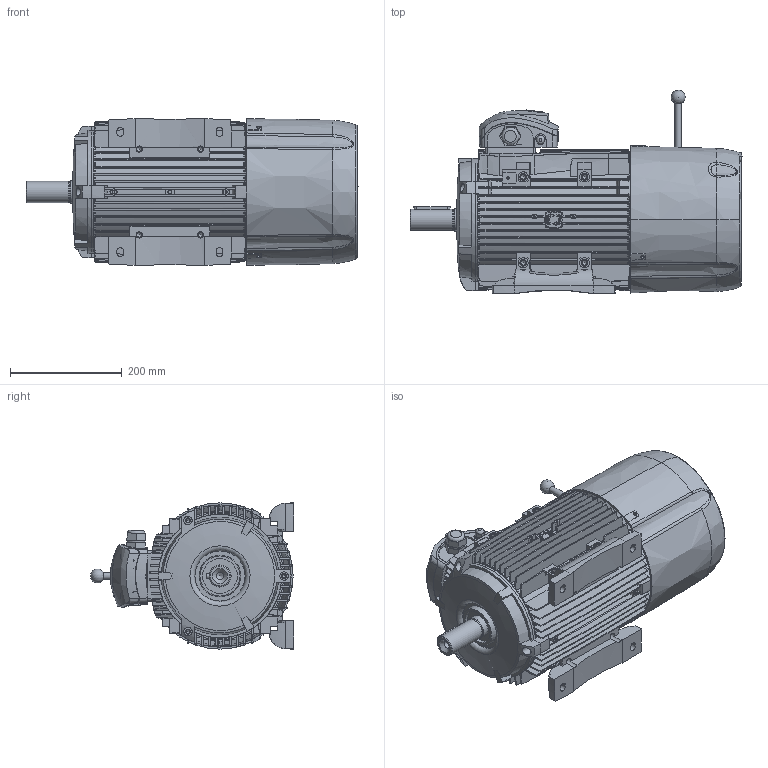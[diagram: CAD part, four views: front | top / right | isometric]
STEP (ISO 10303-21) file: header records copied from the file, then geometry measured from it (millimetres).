
FILE_DESCRIPTION((''),'2;1');
FILE_NAME('D:\htdocs\motive\source_step\M132M.stp','2014-09-10T11:44:37',('ing.Casini'),(''),'Autodesk Inventor 2010','Autodesk Inventor 2010','');
FILE_SCHEMA(('AUTOMOTIVE_DESIGN { 1 0 10303 214 1 1 1 1 }'));
Length unit declared in the file: millimetre
Products named in the file (7): M132M Lighter motor Assly_04.09; BODY132M; B3132; SH132M_4-248-M; FEET132M_1; TBOXATDC132; FCVATDC132
Assembly tree (7 placements, depth 2):
  M132M Lighter motor Assly_04.09
    BODY132M
    B3132
    SH132M_4-248-M
    FEET132M_1  x2
    TBOXATDC132
    FCVATDC132
Bounding box: 595.4 x 364.39 x 262.2 mm (x, y, z)
Volume: 13064441.1 mm3; surface area: 1608771.2 mm2
Topology: 9 solids, 9 shells, 2511 faces, 7005 edges, 4642 vertices
Faces by surface type: plane 937, bspline 735, cylinder 400, cone 280, torus 158, sphere 1
Full cylindrical faces by diameter (mm): 2.5 x4, 4.2 x13, 5.556 x1, 5.6 x2, 6 x6, 6.8 x7, 8.5 x12, 9 x3, 11 x4, 12 x14, 13 x4, 13.5 x1, 15 x3, 17 x4, 32 x2, 37.4 x1, 38 x1, 40 x2, 62 x1, 70 x1, 80 x2, 83.5 x1, 211 x3
Entity records: 130674 total; most frequent: CARTESIAN_POINT 74438, ORIENTED_EDGE 13222, DIRECTION 9195, EDGE_CURVE 6611, VERTEX_POINT 4464, AXIS2_PLACEMENT_3D 3425, EDGE_LOOP 2743, B_SPLINE_CURVE_WITH_KNOTS 2493
